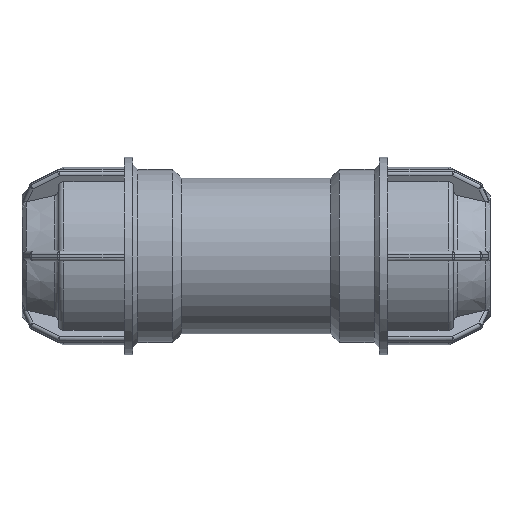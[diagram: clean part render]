
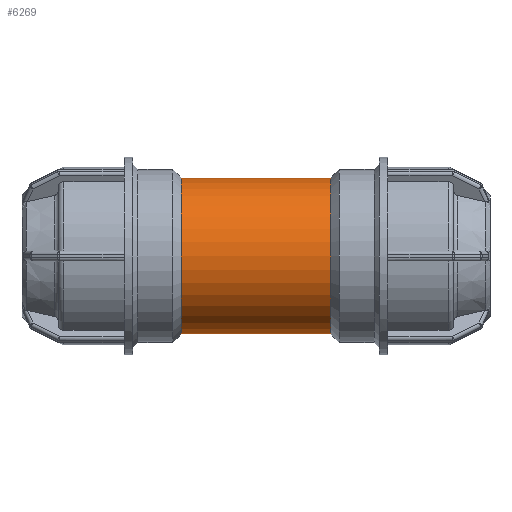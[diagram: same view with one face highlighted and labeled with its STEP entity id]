
A CAD part, front view. The second image highlights one B-rep face of the part: STEP entity #6269.
In plain terms, the highlighted cylindrical face has radius 28.8 mm (diameter 57.6 mm), a full revolution.
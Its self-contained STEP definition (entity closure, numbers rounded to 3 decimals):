
#1030=CIRCLE('',#6286,28.8);
#1197=CIRCLE('',#6652,28.8);
#1418=FACE_BOUND('',#2268,.T.);
#1419=FACE_BOUND('',#2269,.T.);
#1829=FACE_OUTER_BOUND('',#2267,.T.);
#2267=EDGE_LOOP('',(#5723));
#2268=EDGE_LOOP('',(#5724));
#2269=EDGE_LOOP('',(#5725));
#2291=B_SPLINE_CURVE_WITH_KNOTS('',3,(#8974,#8975,#8976,#8977,#8978,#8979,
#8980,#8981,#8982,#8983,#8984,#8985,#8986,#8987,#8988,#8989,#8990,#8991,
#8992,#8993,#8994,#8995,#8996,#8997,#8998,#8999,#9000,#9001,#9002,#9003,
#9004,#9005,#9006,#9007,#9008,#9009,#9010,#9011,#9012,#9013,#9014,#9015,
#9016,#9017,#9018,#9019,#9020,#9021,#9022,#9023,#9024,#9025,#9026,#9027,
#9028,#9029,#9030,#9031),.UNSPECIFIED.,.T.,.F.,(4,2,2,2,2,2,2,2,2,2,2,2,
2,2,2,2,2,2,2,2,2,2,2,2,2,2,2,2,4),(0.,0.31,0.62,
1.24,1.548,1.857,2.165,2.474,
2.783,3.091,3.4,3.708,4.328,
4.638,4.948,5.258,5.568,6.188,
6.496,6.805,7.113,7.422,7.73,
8.039,8.348,8.656,9.276,9.586,
9.896),.UNSPECIFIED.);
#2475=VERTEX_POINT('',#8973);
#2477=VERTEX_POINT('',#9035);
#2740=VERTEX_POINT('',#10512);
#3014=EDGE_CURVE('',#2475,#2475,#2291,.T.);
#3016=EDGE_CURVE('',#2477,#2477,#1030,.T.);
#3465=EDGE_CURVE('',#2740,#2740,#1197,.T.);
#5723=ORIENTED_EDGE('',*,*,#3016,.T.);
#5724=ORIENTED_EDGE('',*,*,#3014,.T.);
#5725=ORIENTED_EDGE('',*,*,#3465,.F.);
#5864=CYLINDRICAL_SURFACE('',#7018,28.8);
#6269=ADVANCED_FACE('',(#1829,#1418,#1419),#5864,.T.);
#6286=AXIS2_PLACEMENT_3D('',#9036,#7044,#7045);
#6652=AXIS2_PLACEMENT_3D('',#10513,#7956,#7957);
#7018=AXIS2_PLACEMENT_3D('',#12000,#8868,#8869);
#7044=DIRECTION('center_axis',(1.,0.,0.));
#7045=DIRECTION('ref_axis',(0.,0.,-1.));
#7956=DIRECTION('center_axis',(1.,0.,0.));
#7957=DIRECTION('ref_axis',(0.,0.,-1.));
#8868=DIRECTION('center_axis',(1.,0.,0.));
#8869=DIRECTION('ref_axis',(0.,1.,0.));
#8973=CARTESIAN_POINT('',(0.,23.947,-16.));
#8974=CARTESIAN_POINT('Ctrl Pts',(0.,23.947,
-16.));
#8975=CARTESIAN_POINT('Ctrl Pts',(1.033,23.947,-16.));
#8976=CARTESIAN_POINT('Ctrl Pts',(2.091,24.015,-15.898));
#8977=CARTESIAN_POINT('Ctrl Pts',(4.178,24.286,-15.482));
#8978=CARTESIAN_POINT('Ctrl Pts',(5.207,24.488,-15.166));
#8979=CARTESIAN_POINT('Ctrl Pts',(8.148,25.223,-13.933));
#8980=CARTESIAN_POINT('Ctrl Pts',(9.915,25.887,-12.712));
#8981=CARTESIAN_POINT('Ctrl Pts',(12.01,26.782,-10.618));
#8982=CARTESIAN_POINT('Ctrl Pts',(12.667,27.086,-9.83));
#8983=CARTESIAN_POINT('Ctrl Pts',(13.834,27.651,-8.105));
#8984=CARTESIAN_POINT('Ctrl Pts',(14.343,27.912,-7.169));
#8985=CARTESIAN_POINT('Ctrl Pts',(15.168,28.344,-5.204));
#8986=CARTESIAN_POINT('Ctrl Pts',(15.483,28.515,-4.173));
#8987=CARTESIAN_POINT('Ctrl Pts',(15.899,28.744,-2.085));
#8988=CARTESIAN_POINT('Ctrl Pts',(16.,28.8,-1.029));
#8989=CARTESIAN_POINT('Ctrl Pts',(16.,28.8,1.029));
#8990=CARTESIAN_POINT('Ctrl Pts',(15.899,28.744,2.085));
#8991=CARTESIAN_POINT('Ctrl Pts',(15.483,28.515,4.173));
#8992=CARTESIAN_POINT('Ctrl Pts',(15.168,28.344,5.204));
#8993=CARTESIAN_POINT('Ctrl Pts',(14.343,27.912,7.169));
#8994=CARTESIAN_POINT('Ctrl Pts',(13.834,27.651,8.105));
#8995=CARTESIAN_POINT('Ctrl Pts',(12.667,27.086,9.83));
#8996=CARTESIAN_POINT('Ctrl Pts',(12.01,26.782,10.618));
#8997=CARTESIAN_POINT('Ctrl Pts',(9.915,25.887,12.712));
#8998=CARTESIAN_POINT('Ctrl Pts',(8.148,25.223,13.933));
#8999=CARTESIAN_POINT('Ctrl Pts',(5.207,24.488,15.166));
#9000=CARTESIAN_POINT('Ctrl Pts',(4.178,24.286,15.482));
#9001=CARTESIAN_POINT('Ctrl Pts',(2.091,24.015,15.898));
#9002=CARTESIAN_POINT('Ctrl Pts',(1.033,23.947,16.));
#9003=CARTESIAN_POINT('Ctrl Pts',(-1.033,23.947,16.));
#9004=CARTESIAN_POINT('Ctrl Pts',(-2.091,24.015,15.898));
#9005=CARTESIAN_POINT('Ctrl Pts',(-4.178,24.286,15.482));
#9006=CARTESIAN_POINT('Ctrl Pts',(-5.207,24.488,15.166));
#9007=CARTESIAN_POINT('Ctrl Pts',(-8.148,25.223,13.933));
#9008=CARTESIAN_POINT('Ctrl Pts',(-9.915,25.887,12.712));
#9009=CARTESIAN_POINT('Ctrl Pts',(-12.01,26.782,10.618));
#9010=CARTESIAN_POINT('Ctrl Pts',(-12.667,27.086,9.83));
#9011=CARTESIAN_POINT('Ctrl Pts',(-13.834,27.651,8.105));
#9012=CARTESIAN_POINT('Ctrl Pts',(-14.343,27.912,7.169));
#9013=CARTESIAN_POINT('Ctrl Pts',(-15.168,28.344,5.204));
#9014=CARTESIAN_POINT('Ctrl Pts',(-15.483,28.515,4.173));
#9015=CARTESIAN_POINT('Ctrl Pts',(-15.899,28.744,2.085));
#9016=CARTESIAN_POINT('Ctrl Pts',(-16.,28.8,1.029));
#9017=CARTESIAN_POINT('Ctrl Pts',(-16.,28.8,-1.029));
#9018=CARTESIAN_POINT('Ctrl Pts',(-15.899,28.744,-2.085));
#9019=CARTESIAN_POINT('Ctrl Pts',(-15.483,28.515,-4.173));
#9020=CARTESIAN_POINT('Ctrl Pts',(-15.168,28.344,-5.204));
#9021=CARTESIAN_POINT('Ctrl Pts',(-14.343,27.912,-7.169));
#9022=CARTESIAN_POINT('Ctrl Pts',(-13.834,27.651,-8.105));
#9023=CARTESIAN_POINT('Ctrl Pts',(-12.667,27.086,-9.83));
#9024=CARTESIAN_POINT('Ctrl Pts',(-12.01,26.782,-10.618));
#9025=CARTESIAN_POINT('Ctrl Pts',(-9.915,25.887,-12.712));
#9026=CARTESIAN_POINT('Ctrl Pts',(-8.148,25.223,-13.933));
#9027=CARTESIAN_POINT('Ctrl Pts',(-5.207,24.488,-15.166));
#9028=CARTESIAN_POINT('Ctrl Pts',(-4.178,24.286,-15.482));
#9029=CARTESIAN_POINT('Ctrl Pts',(-2.091,24.015,-15.898));
#9030=CARTESIAN_POINT('Ctrl Pts',(-1.033,23.947,-16.));
#9031=CARTESIAN_POINT('Ctrl Pts',(0.,23.947,-16.));
#9035=CARTESIAN_POINT('',(-27.6,28.8,0.));
#9036=CARTESIAN_POINT('Origin',(-27.6,0.,0.));
#10512=CARTESIAN_POINT('',(27.6,28.8,0.));
#10513=CARTESIAN_POINT('Origin',(27.6,0.,0.));
#12000=CARTESIAN_POINT('Origin',(13.8,0.,0.));
